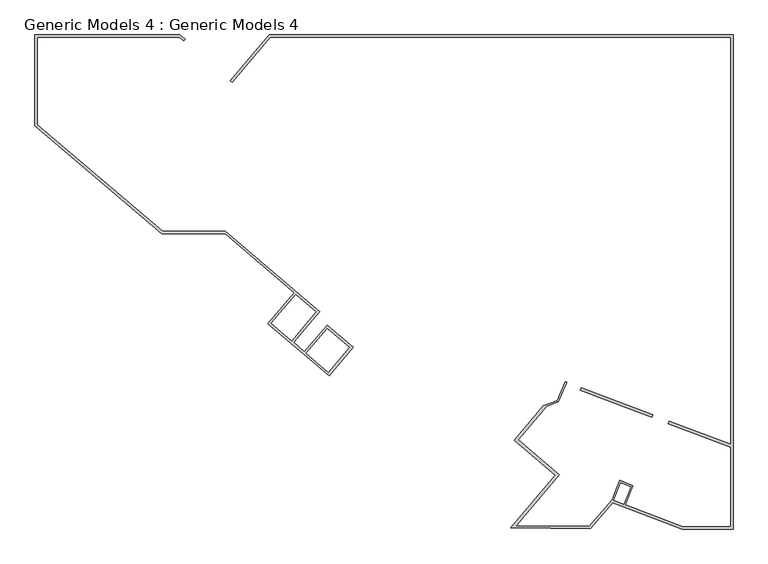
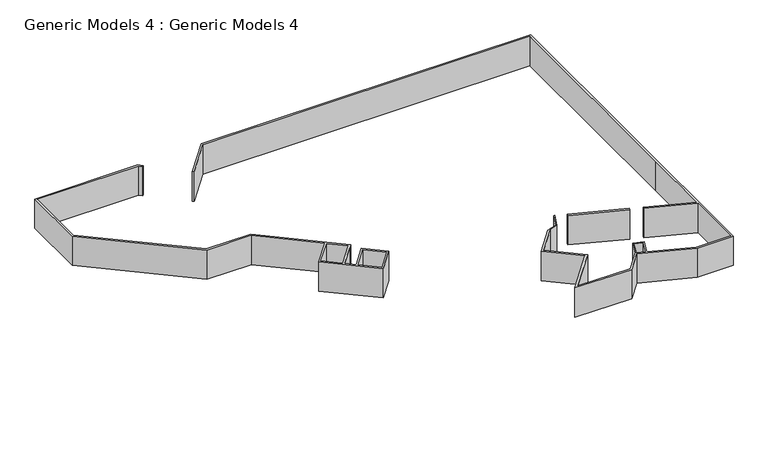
"""IFC4 building model written with IfcOpenShell, lengths in millimetres: proxy geometry, Generic Models 4 : Generic Models 4."""

from ifc_helpers import new_model, si_unit, origin, origin_with_axes, place, context, project, spatial, polyline, outline, extrude, source, transform, mapped, element, save


def generic_models_4_generic_models_4_c9c36cd4(model_context):
    return source(origin(), model_context, "Body", "SweptSolid", [
        extrude(outline(polyline([(855315.4262739, 4032.1084162), (862620.4601686, 12515.1845143), (843493.5422507, 28876.7073926), (826066.3880973, 28876.7073926), (790967.3442265, 58688.376963), (790967.3442265, 83774.6669182), (831047.9955465, 83774.6669182), (832450.9147424, 82583.1124796), (832038.2608763, 82097.259705), (830813.8242073, 83137.2219152), (791604.7892295, 83137.2219152), (791604.7892295, 58983.3014856), (826300.5634565, 29514.1523956), (843585.9864956, 29514.1523956), (869676.4406891, 7354.5037223), (868436.7153623, 5894.8688098), (862432.2164452, -1174.7425483), (865435.4765791, -3725.9601872), (871685.4948651, 3632.7221731), (878885.7139118, -2482.7069897), (872222.5719721, -10327.7952468), (855315.4262739, 4032.1084162)]), holes=[polyline([(861854.6157417, -684.0807217), (868608.1854092, 7267.4758508), (863021.1802466, 12012.7390271), (856195.9377727, 4122.8685281), (861854.6157417, -684.0807217)]), polyline([(871769.9551441, 2595.9837414), (865996.036268, -4202.1459661), (872074.5349879, -9365.7256964), (877849.2059736, -2567.3630359), (871769.9551441, 2595.9837414)])]), origin_with_axes(), (0.0, 0.0, 1.0), 12087.3611648),
        extrude(outline(polyline([(855704.7659954, 83774.6669182), (983846.8642056, 83774.6669182), (983846.8642056, -52724.4754369), (969820.7201737, -52724.4754369), (950592.4283265, -45418.5412195), (944366.6305123, -52649.0087272), (922390.3297289, -52416.2552991), (934783.9455649, -37824.1888351), (923388.2240786, -28145.3544751), (931440.8285787, -18664.3328243), (935301.7193376, -17276.6131721), (937512.1095758, -12015.3682703), (937862.9685182, -12148.6797664), (935561.025549, -17615.8836153), (932343.3807554, -18772.4014224), (924456.4793586, -28058.3266036), (935852.2008449, -37737.1609636), (923912.4144548, -51794.8951129), (944161.6403834, -52009.3569006), (950401.0192564, -44663.9063183), (952478.9260113, -39301.8203803), (956163.1319642, -40729.5178333), (954094.6343816, -46067.3231867), (969937.7400463, -52087.0304339), (983209.4192027, -52087.0304339), (983209.4192027, -30189.1406869), (965884.8699413, -23606.5477944), (966154.0536239, -22898.0904973), (983209.4192027, -29378.4050235), (983209.4192027, -1435.2581218), (983209.4192027, 83137.2219152), (855999.6948183, 83137.2219152), (845445.0563308, 70710.3411445), (844959.2035562, 71122.9950106), (855704.7659954, 83774.6669182)]), holes=[polyline([(950859.3996152, -44838.0713858), (953636.2540229, -45893.1581192), (955528.7409847, -41009.5522009), (952758.9603789, -39936.2113599), (950859.3996152, -44838.0713858)])]), origin_with_axes(), (0.0, 0.0, 1.0), 12087.3611648),
        extrude(outline(polyline([(941604.7256732, -14381.1242247), (941873.9093557, -13672.6669276), (961689.7438318, -21201.8423892), (961420.5601493, -21910.2996863), (941604.7256732, -14381.1242247)])), origin_with_axes(), (0.0, 0.0, 1.0), 12087.3611648),
    ])


if __name__ == "__main__":
    model = new_model("IFC4")
    model_context = context("Model", 3, world=origin())
    ifc_project = project(units=[si_unit("LENGTHUNIT", "METRE", prefix="MILLI")], contexts=[model_context])
    site = spatial("IfcSite", under=ifc_project)
    building = spatial("IfcBuilding", under=site)
    placement = place(None, origin())
    generic_models_4_generic_models_4_shape = generic_models_4_generic_models_4_c9c36cd4(model_context)
    element("IfcBuildingElementProxy", 1, Name="Generic Models 4 : Generic Models 4", ObjectType="Generic Models 4 : Generic Models 4", at=placement, inside=building, context=model_context, shape_type="MappedRepresentation", body=[
        mapped(generic_models_4_generic_models_4_shape, transform((0.0, 0.0, 0.0), x_axis=(1.0, 0.0, 0.0), y_axis=(0.0, 1.0, 0.0), z_axis=(0.0, 0.0, 1.0))),
    ])
    save(model, "model.ifc")
